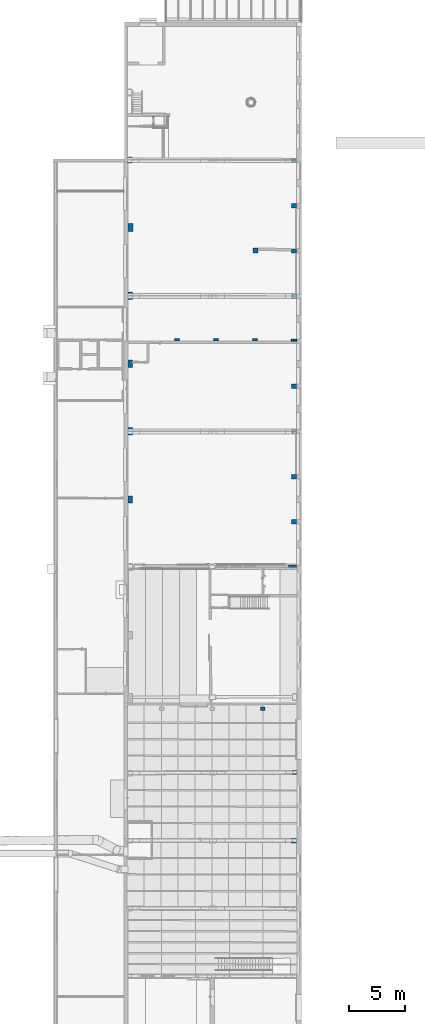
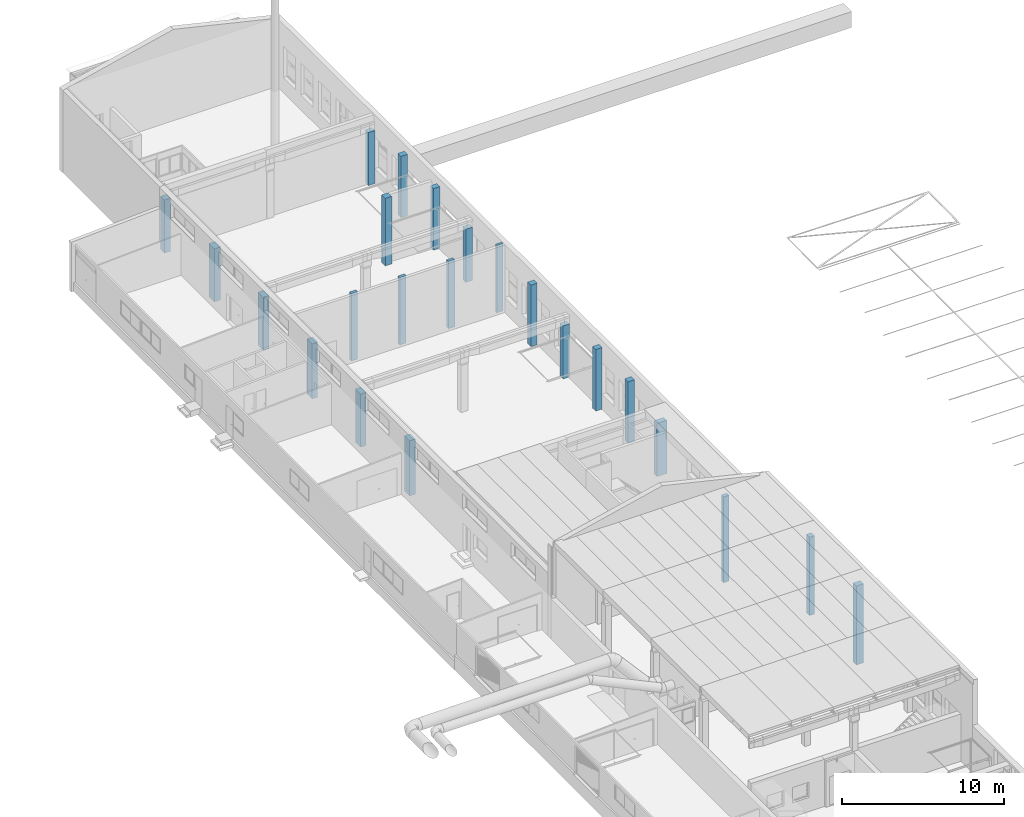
# One storey, part 18 of 301: 23 columns.
"""IFC2X3 building model written with IfcOpenShell, lengths in millimetres."""

from ifc_helpers import new_model, entity, si_unit, converted_unit, derived_unit, money_unit, direction, frame, origin_with_axes, place, context, subcontext, project, spatial, faceted_brep, material, type_object, element, save


model = new_model("IFC2X3")

# Units and contexts
model_context = context("Model", 3, precision=0.01, world=origin_with_axes(), true_north=direction((0.0, 1.0)))
body_context = subcontext(model_context, "Body", "Model", "MODEL_VIEW")
ifc_project = project(units=[si_unit("LENGTHUNIT", "METRE", prefix="MILLI"), si_unit("AREAUNIT", "SQUARE_METRE"), si_unit("VOLUMEUNIT", "CUBIC_METRE"), converted_unit("PLANEANGLEUNIT", "DEGREE", entity("IfcPlaneAngleMeasure", 0.0174532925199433), si_unit("PLANEANGLEUNIT", "RADIAN"), dimensions=[0, 0, 0, 0, 0, 0, 0]), money_unit("EUR"), converted_unit("TIMEUNIT", "Year", entity("IfcTimeMeasure", 31557600.0), si_unit("TIMEUNIT", "SECOND"), dimensions=[0, 0, 1, 0, 0, 0, 0]), si_unit("MASSUNIT", "GRAM", prefix="KILO"), si_unit("THERMODYNAMICTEMPERATUREUNIT", "DEGREE_CELSIUS"), si_unit("LUMINOUSINTENSITYUNIT", "LUMEN"), si_unit("ENERGYUNIT", "JOULE", prefix="MEGA"), derived_unit("THERMALCONDUCTANCEUNIT", [(si_unit("POWERUNIT", "WATT"), 1), (si_unit("LENGTHUNIT", "METRE"), -1), (si_unit("THERMODYNAMICTEMPERATUREUNIT", "KELVIN"), -1)]), derived_unit("SPECIFICHEATCAPACITYUNIT", [(si_unit("ENERGYUNIT", "JOULE"), 1), (si_unit("MASSUNIT", "GRAM", prefix="KILO"), -1), (si_unit("THERMODYNAMICTEMPERATUREUNIT", "KELVIN"), -1)]), derived_unit("MASSDENSITYUNIT", [(si_unit("MASSUNIT", "GRAM", prefix="KILO"), 1), (si_unit("VOLUMEUNIT", "CUBIC_METRE"), -1)])], contexts=[model_context])

# Site, building, storey
site_placement = place(None, frame((0.0, 0.0, 8650.0), z_axis=(0.0, 0.0, 1.0), x_axis=(1.0, 0.0, 0.0)))
site = spatial("IfcSite", under=ifc_project, at=site_placement, Name="43301:001:0844", CompositionType="ELEMENT")
building_placement = place(site_placement, origin_with_axes())
building = spatial("IfcBuilding", under=site, at=building_placement, Name="Kuressaare Ametikooli tuulikute mehaanikute õppekorpus", CompositionType="ELEMENT")
storey_placement = place(building_placement, origin_with_axes())
storey = spatial("IfcBuildingStorey", under=building, at=storey_placement, Name="1.korrus", CompositionType="ELEMENT", Elevation=0.0)

# Columns
ifc_material = material(Name="GENEERILINE - KONSTRUKTRIOON")
column_type_1 = type_object("IfcColumnType", Name="GENEERILINE - KONSTRUKTRIOON 500 x 400", PredefinedType="NOTDEFINED")
column_1_placement = place(storey_placement, frame((102977.5122029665, 50085.18157357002, 130.0), z_axis=(0.0, 0.0, 1.0), x_axis=(-1.0, 0.0, 0.0)))
element("IfcColumn", 1, at=column_1_placement, inside=storey, type_object=column_type_1, material=ifc_material, context=body_context, shape_type="Brep", body=[
    faceted_brep([(250.0000040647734, 199.9999999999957, 5950.0), (250.0000040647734, 199.9999999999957, 0.0), (-250.0000040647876, 199.9999999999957, 0.0), (-250.0000040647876, 199.9999999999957, 5950.0), (250.0000040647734, -200.0000000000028, 5950.0), (250.0000040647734, -200.0000000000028, 0.0), (-250.0000040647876, -200.0000000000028, 0.0), (-250.0000040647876, -200.0000000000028, 5950.0)], [[[0, 1, 2, 3]], [[4, 5, 1, 0]], [[2, 1, 5, 6]], [[3, 2, 6, 7]], [[4, 0, 3, 7]], [[7, 6, 5, 4]]]),
])
column_type_2 = type_object("IfcColumnType", Name="GENEERILINE - KONSTRUKTRIOON 400 x 286", PredefinedType="NOTDEFINED")
column_2_placement = place(storey_placement, frame((100244.5361574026, 61795.5255259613, 130.0), z_axis=(0.0, 0.0, 1.0), x_axis=(1.0, 0.0, 0.0)))
element("IfcColumn", 2, at=column_2_placement, inside=storey, type_object=column_type_2, material=ifc_material, context=body_context, shape_type="Brep", body=[
    faceted_brep([(-200.0000000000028, -142.8044322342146, 6470.0), (-200.0000000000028, -142.8044322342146, 0.0), (200.0000000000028, -142.8044322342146, 0.0), (200.0000000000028, -142.8044322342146, 6470.0), (-200.0000000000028, 142.8044322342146, 6470.0), (-200.0000000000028, 142.8044322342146, 0.0), (200.0000000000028, 142.8044322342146, 0.0), (200.0000000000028, 142.8044322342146, 6470.0)], [[[0, 1, 2, 3]], [[4, 5, 1, 0]], [[2, 1, 5, 6]], [[3, 2, 6, 7]], [[4, 0, 3, 7]], [[7, 6, 5, 4]]]),
])
column_type_3 = type_object("IfcColumnType", Name="GENEERILINE - KONSTRUKTRIOON 350 x 390", PredefinedType="NOTDEFINED")
column_3_placement = place(storey_placement, frame((103052.5122070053, 56132.98181024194, 130.0), z_axis=(0.0, 0.0, 1.0), x_axis=(-1.0, 0.0, 0.0)))
element("IfcColumn", 3, at=column_3_placement, inside=storey, type_object=column_type_3, material=ifc_material, context=body_context, shape_type="Brep", body=[
    faceted_brep([(175.0000000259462, 195.0000025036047, 5900.0), (175.0000000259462, 195.0000025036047, 0.0), (-175.000000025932, 195.0000025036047, 0.0), (-175.000000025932, 195.0000025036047, 5900.0), (175.0000000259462, -195.0000025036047, 5900.0), (175.0000000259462, -195.0000025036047, 0.0), (-175.000000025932, -195.0000025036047, 0.0), (-175.000000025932, -195.0000025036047, 5900.0)], [[[0, 1, 2, 3]], [[4, 5, 1, 0]], [[2, 1, 5, 6]], [[3, 2, 6, 7]], [[4, 0, 3, 7]], [[7, 6, 5, 4]]]),
])
column_type_4 = type_object("IfcColumnType", Name="GENEERILINE - KONSTRUKTRIOON 420 x 500", PredefinedType="NOTDEFINED")
column_4_placement = place(storey_placement, frame((88428.74598310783, 110487.4402275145, -330.0), z_axis=(0.0, 0.0, 1.0), x_axis=(-1.0, 0.0, 0.0)))
element("IfcColumn", 4, at=column_4_placement, inside=storey, type_object=column_type_4, material=ifc_material, context=body_context, shape_type="Brep", body=[
    faceted_brep([(-209.9999999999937, -250.0, 4000.000000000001), (-209.9999999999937, -250.0, 0.0), (210.000000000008, -250.0, 0.0), (210.000000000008, -250.0, 4000.000000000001), (-209.9999999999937, 250.0, 4000.000000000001), (-209.9999999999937, 250.0, 0.0), (210.000000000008, 250.0, 0.0), (210.000000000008, 250.0, 4000.000000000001)], [[[0, 1, 2, 3]], [[4, 5, 1, 0]], [[2, 1, 5, 6]], [[3, 2, 6, 7]], [[4, 0, 3, 7]], [[7, 6, 5, 4]]]),
])
column_type_5 = type_object("IfcColumnType", Name="GENEERILINE - KONSTRUKTRIOON 460 x 390", PredefinedType="NOTDEFINED")
column_5_placement = place(storey_placement, frame((102997.5122070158, 98393.96082227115, -330.0), z_axis=(0.0, 0.0, 1.0), x_axis=(-1.0, 0.0, 0.0)))
element("IfcColumn", 5, at=column_5_placement, inside=storey, type_object=column_type_5, material=ifc_material, context=body_context, shape_type="Brep", body=[
    faceted_brep([(230.0000000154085, 195.0000000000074, 4000.000000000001), (230.0000000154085, 195.0000000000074, 0.0), (-230.0000000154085, 195.0000000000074, 0.0), (-230.0000000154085, 195.0000000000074, 4000.000000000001), (230.0000000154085, -194.9999999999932, 4000.000000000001), (230.0000000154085, -194.9999999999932, 0.0), (-230.0000000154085, -194.9999999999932, 0.0), (-230.0000000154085, -194.9999999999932, 4000.000000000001)], [[[0, 1, 2, 3]], [[4, 5, 1, 0]], [[2, 1, 5, 6]], [[3, 2, 6, 7]], [[4, 0, 3, 7]], [[7, 6, 5, 4]]]),
])
for number, where, z_axis, x_axis in (
    (6, (102997.5122070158, 102409.6179199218, -330.0), (0.0, 0.0, 1.0), (-1.0, 0.0, 0.0)),
    (7, (102997.5122070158, 106428.9608222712, -330.0), (0.0, 0.0, 1.0), (-1.0, 0.0, 0.0)),
):
    element("IfcColumn", number, at=place(storey_placement, frame(where, z_axis=z_axis, x_axis=x_axis)), inside=storey, type_object=column_type_5, material=ifc_material, context=body_context, shape_type="Brep", body=[
        faceted_brep([(230.0000000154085, 195.0000000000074, 4630.0), (230.0000000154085, 195.0000000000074, 0.0), (-230.0000000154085, 195.0000000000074, 0.0), (-230.0000000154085, 195.0000000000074, 4630.0), (230.0000000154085, -194.9999999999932, 4630.0), (230.0000000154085, -194.9999999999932, 0.0), (-230.0000000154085, -194.9999999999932, 0.0), (-230.0000000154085, -194.9999999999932, 4630.0)], [[[0, 1, 2, 3]], [[4, 5, 1, 0]], [[2, 1, 5, 6]], [[3, 2, 6, 7]], [[4, 0, 3, 7]], [[7, 6, 5, 4]]]),
    ])
column_6_placement = place(storey_placement, frame((102997.5122070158, 110438.9608222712, -330.0), z_axis=(0.0, 0.0, 1.0), x_axis=(-1.0, 0.0, 0.0)))
element("IfcColumn", 8, at=column_6_placement, inside=storey, type_object=column_type_5, material=ifc_material, context=body_context, shape_type="Brep", body=[
    faceted_brep([(230.0000000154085, 195.0000000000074, 3988.130658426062), (230.0000000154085, 195.0000000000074, 0.0), (-230.0000000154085, 195.0000000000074, 0.0), (-230.0000000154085, 195.0000000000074, 3988.130658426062), (230.0000000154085, -194.9999999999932, 3988.130658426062), (230.0000000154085, -194.9999999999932, 0.0), (-230.0000000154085, -194.9999999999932, 0.0), (-230.0000000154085, -194.9999999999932, 3988.130658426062)], [[[0, 1, 2, 3]], [[4, 5, 1, 0]], [[2, 1, 5, 6]], [[3, 2, 6, 7]], [[4, 0, 3, 7]], [[7, 6, 5, 4]]]),
])
column_7_placement = place(storey_placement, frame((102997.5122070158, 86385.60203897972, -330.0), z_axis=(0.0, 0.0, 1.0), x_axis=(-1.0, 0.0, 0.0)))
element("IfcColumn", 9, at=column_7_placement, inside=storey, type_object=column_type_5, material=ifc_material, context=body_context, shape_type="Brep", body=[
    faceted_brep([(230.0000000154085, 195.0000000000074, 4000.000000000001), (230.0000000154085, 195.0000000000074, 0.0), (-230.0000000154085, 195.0000000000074, 0.0), (-230.0000000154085, 195.0000000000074, 4000.000000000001), (230.0000000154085, -194.9999999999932, 4000.000000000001), (230.0000000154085, -194.9999999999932, 0.0), (-230.0000000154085, -194.9999999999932, 0.0), (-230.0000000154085, -194.9999999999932, 4000.000000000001)], [[[0, 1, 2, 3]], [[4, 5, 1, 0]], [[2, 1, 5, 6]], [[3, 2, 6, 7]], [[4, 0, 3, 7]], [[7, 6, 5, 4]]]),
])
column_type_6 = type_object("IfcColumnType", Name="GENEERILINE - KONSTRUKTRIOON 220 x 450", PredefinedType="NOTDEFINED")
for number, where, z_axis, x_axis in (
    (10, (92623.63822281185, 94513.96082227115, -330.0), (0.0, 0.0, 1.0), (0.0, -1.0, 0.0)),
    (11, (96077.17899762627, 94513.96082227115, -330.0), (0.0, 0.0, 1.0), (0.0, -1.0, 0.0)),
    (12, (99555.34505997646, 94513.96082227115, -330.0), (0.0, 0.0, 1.0), (0.0, -1.0, 0.0)),
):
    element("IfcColumn", number, at=place(storey_placement, frame(where, z_axis=z_axis, x_axis=x_axis)), inside=storey, type_object=column_type_6, material=ifc_material, context=body_context, shape_type="Brep", body=[
        faceted_brep([(-109.9999999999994, -224.9999999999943, 5090.0), (-109.9999999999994, -224.9999999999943, 0.0), (109.9999999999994, -224.9999999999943, 0.0), (109.9999999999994, -224.9999999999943, 5090.0), (-109.9999999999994, 225.0000000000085, 5090.0), (-109.9999999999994, 225.0000000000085, 0.0), (109.9999999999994, 225.0000000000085, 0.0), (109.9999999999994, 225.0000000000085, 5090.0)], [[[0, 1, 2, 3]], [[4, 5, 1, 0]], [[2, 1, 5, 6]], [[3, 2, 6, 7]], [[4, 0, 3, 7]], [[7, 6, 5, 4]]]),
    ])
column_type_7 = type_object("IfcColumnType", Name="GENEERILINE - KONSTRUKTRIOON 390 x 675", PredefinedType="NOTDEFINED")
column_8_placement = place(storey_placement, frame((88453.75663055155, 98445.75843261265, -330.0), z_axis=(0.0, 0.0, 1.0), x_axis=(-1.0, 0.0, 0.0)))
element("IfcColumn", 13, at=column_8_placement, inside=storey, type_object=column_type_7, material=ifc_material, context=body_context, shape_type="Brep", body=[
    faceted_brep([(-195.0001837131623, -337.5000026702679, 4000.000000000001), (-195.0001837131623, -337.5000026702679, 0.0), (195.0001837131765, -337.5000026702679, 0.0), (195.0001837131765, -337.5000026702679, 4000.000000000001), (-195.0001837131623, 337.5000026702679, 4000.000000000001), (-195.0001837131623, 337.5000026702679, 0.0), (195.0001837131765, 337.5000026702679, 0.0), (195.0001837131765, 337.5000026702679, 4000.000000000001)], [[[0, 1, 2, 3]], [[4, 5, 1, 0]], [[2, 1, 5, 6]], [[3, 2, 6, 7]], [[4, 0, 3, 7]], [[7, 6, 5, 4]]]),
])
column_type_8 = type_object("IfcColumnType", Name="GENEERILINE - KONSTRUKTRIOON 460 x 460", PredefinedType="NOTDEFINED")
column_9_placement = place(storey_placement, frame((99571.51367185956, 102458.6148071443, -330.0), z_axis=(0.0, 0.0, 1.0), x_axis=(-1.0, 0.0, 0.0)))
element("IfcColumn", 14, at=column_9_placement, inside=storey, type_object=column_type_8, material=ifc_material, context=body_context, shape_type="Brep", body=[
    faceted_brep([(230.0000000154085, 230.0000000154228, 5090.0), (230.0000000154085, 230.0000000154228, 0.0), (-230.0000000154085, 230.0000000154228, 0.0), (-230.0000000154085, 230.0000000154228, 5090.0), (230.0000000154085, -230.0000000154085, 5090.0), (230.0000000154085, -230.0000000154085, 0.0), (-230.0000000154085, -230.0000000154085, 0.0), (-230.0000000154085, -230.0000000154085, 5090.0)], [[[0, 1, 2, 3]], [[4, 5, 1, 0]], [[2, 1, 5, 6]], [[3, 2, 6, 7]], [[4, 0, 3, 7]], [[7, 6, 5, 4]]]),
])
column_type_9 = type_object("IfcColumnType", Name="GENEERILINE - KONSTRUKTRIOON 450 x 675", PredefinedType="NOTDEFINED")
column_10_placement = place(storey_placement, frame((88483.759498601, 104491.0339382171, -330.0), z_axis=(0.0, 0.0, 1.0), x_axis=(-1.0, 0.0, 0.0)))
element("IfcColumn", 15, at=column_10_placement, inside=storey, type_object=column_type_9, material=ifc_material, context=body_context, shape_type="Brep", body=[
    faceted_brep([(-225.0000000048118, -337.5000026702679, 4000.000000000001), (-225.0000000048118, -337.5000026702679, 0.0), (225.0000000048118, -337.5000026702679, 0.0), (225.0000000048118, -337.5000026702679, 4000.000000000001), (-225.0000000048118, 337.5000026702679, 4000.000000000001), (-225.0000000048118, 337.5000026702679, 0.0), (225.0000000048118, 337.5000026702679, 0.0), (225.0000000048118, 337.5000026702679, 4000.000000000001)], [[[0, 1, 2, 3]], [[4, 5, 1, 0]], [[2, 1, 5, 6]], [[3, 2, 6, 7]], [[4, 0, 3, 7]], [[7, 6, 5, 4]]]),
])
column_type_10 = type_object("IfcColumnType", Name="GENEERILINE - KONSTRUKTRIOON 175 x 450", PredefinedType="NOTDEFINED")
column_11_placement = place(storey_placement, frame((103002.5122070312, 94491.46082231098, -330.0), z_axis=(0.0, 0.0, 1.0), x_axis=(0.0, -1.0, 0.0)))
element("IfcColumn", 16, at=column_11_placement, inside=storey, type_object=column_type_10, material=ifc_material, context=body_context, shape_type="Brep", body=[
    faceted_brep([(-87.50000003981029, -224.9999999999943, 5090.0), (-87.50000003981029, -224.9999999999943, 0.0), (87.5000000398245, -224.9999999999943, 0.0), (87.5000000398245, -224.9999999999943, 5090.0), (-87.50000003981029, 225.0000000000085, 5090.0), (-87.50000003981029, 225.0000000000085, 0.0), (87.5000000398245, 225.0000000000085, 0.0), (87.5000000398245, 225.0000000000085, 5090.0)], [[[0, 1, 2, 3]], [[4, 5, 1, 0]], [[2, 1, 5, 6]], [[3, 2, 6, 7]], [[4, 0, 3, 7]], [[7, 6, 5, 4]]]),
])
column_type_11 = type_object("IfcColumnType", Name="GENEERILINE - KONSTRUKTRIOON 400 x 660", PredefinedType="NOTDEFINED")
column_12_placement = place(storey_placement, frame((88458.7564494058, 86419.38242523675, -330.0), z_axis=(0.0, 0.0, 1.0), x_axis=(-1.0, 0.0, 0.0)))
element("IfcColumn", 17, at=column_12_placement, inside=storey, type_object=column_type_11, material=ifc_material, context=body_context, shape_type="Brep", body=[
    faceted_brep([(-200.0000025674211, -330.0000026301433, 4000.000000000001), (-200.0000025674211, -330.0000026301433, 0.0), (200.0000025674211, -330.0000026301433, 0.0), (200.0000025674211, -330.0000026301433, 4000.000000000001), (-200.0000025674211, 330.0000026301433, 4000.000000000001), (-200.0000025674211, 330.0000026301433, 0.0), (200.0000025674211, 330.0000026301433, 0.0), (200.0000025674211, 330.0000026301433, 4000.000000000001)], [[[0, 1, 2, 3]], [[4, 5, 1, 0]], [[2, 1, 5, 6]], [[3, 2, 6, 7]], [[4, 0, 3, 7]], [[7, 6, 5, 4]]]),
])
column_type_12 = type_object("IfcColumnType", Name="GENEERILINE - KONSTRUKTRIOON 400 x 640", PredefinedType="NOTDEFINED")
column_13_placement = place(storey_placement, frame((88458.50867978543, 80346.11343481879, -330.0), z_axis=(0.0, 0.0, 1.0), x_axis=(-1.0, 0.0, 0.0)))
element("IfcColumn", 18, at=column_13_placement, inside=storey, type_object=column_type_12, material=ifc_material, context=body_context, shape_type="Brep", body=[
    faceted_brep([(-200.0000354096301, -320.0000440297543, 4150.0), (-200.0000354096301, -320.0000440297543, 0.0), (200.0000354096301, -320.0000440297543, 0.0), (200.0000354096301, -320.0000440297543, 4150.0), (-200.0000354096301, 320.0000440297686, 4150.0), (-200.0000354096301, 320.0000440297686, 0.0), (200.0000354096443, 320.0000440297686, 0.0), (200.0000354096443, 320.0000440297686, 4150.0)], [[[0, 1, 2, 3]], [[4, 5, 1, 0]], [[2, 1, 5, 6]], [[3, 2, 6, 7]], [[4, 0, 3, 7]], [[7, 6, 5, 4]]]),
])
column_14_placement = place(storey_placement, frame((88458.50867978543, 92402.34581946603, -330.0), z_axis=(0.0, 0.0, 1.0), x_axis=(-1.0, 0.0, 0.0)))
element("IfcColumn", 19, at=column_14_placement, inside=storey, type_object=column_type_12, material=ifc_material, context=body_context, shape_type="Brep", body=[
    faceted_brep([(-200.0000354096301, -320.0000440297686, 4150.0), (-200.0000354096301, -320.0000440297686, 0.0), (200.0000354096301, -320.0000440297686, 0.0), (200.0000354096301, -320.0000440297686, 4150.0), (-200.0000354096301, 320.0000440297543, 4150.0), (-200.0000354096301, 320.0000440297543, 0.0), (200.0000354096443, 320.0000440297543, 0.0), (200.0000354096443, 320.0000440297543, 4150.0)], [[[0, 1, 2, 3]], [[4, 5, 1, 0]], [[2, 1, 5, 6]], [[3, 2, 6, 7]], [[4, 0, 3, 7]], [[7, 6, 5, 4]]]),
])
column_type_13 = type_object("IfcColumnType", Name="GENEERILINE - KONSTRUKTRIOON 450 x 400", PredefinedType="NOTDEFINED")
for number, where, z_axis, x_axis in (
    (20, (103002.5122053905, 82380.60203897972, -330.0), (0.0, 0.0, 1.0), (-1.0, 0.0, 0.0)),
    (21, (103002.5122053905, 78375.10160295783, -330.0), (0.0, 0.0, 1.0), (-1.0, 0.0, 0.0)),
    (22, (103002.5122053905, 90390.10160295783, -330.0), (0.0, 0.0, 1.0), (-1.0, 0.0, 0.0)),
):
    element("IfcColumn", number, at=place(storey_placement, frame(where, z_axis=z_axis, x_axis=x_axis)), inside=storey, type_object=column_type_13, material=ifc_material, context=body_context, shape_type="Brep", body=[
        faceted_brep([(225.000001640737, 200.0000000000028, 4650.0), (225.000001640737, 200.0000000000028, 0.0), (-225.000001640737, 200.0000000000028, 0.0), (-225.000001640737, 200.0000000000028, 4650.0), (225.000001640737, -200.0000000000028, 4650.0), (225.000001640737, -200.0000000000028, 0.0), (-225.000001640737, -200.0000000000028, 0.0), (-225.000001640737, -200.0000000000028, 4650.0)], [[[0, 1, 2, 3]], [[4, 5, 1, 0]], [[2, 1, 5, 6]], [[3, 2, 6, 7]], [[4, 0, 3, 7]], [[7, 6, 5, 4]]]),
    ])
column_type_14 = type_object("IfcColumnType", Name="GENEERILINE - KONSTRUKTRIOON 700 x 380", PredefinedType="NOTDEFINED")
column_15_placement = place(storey_placement, frame((102877.512200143, 74375.19257865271, -330.0), z_axis=(0.0, 0.0, 1.0), x_axis=(-1.0, 0.0, 0.0)))
element("IfcColumn", 23, at=column_15_placement, inside=storey, type_object=column_type_14, material=ifc_material, context=body_context, shape_type="Brep", body=[
    faceted_brep([(350.0000068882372, 190.0000410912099, 4000.000000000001), (350.0000068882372, 190.0000410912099, 0.0), (-350.000006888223, 190.0000410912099, 0.0), (-350.000006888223, 190.0000410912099, 4000.000000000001), (350.0000068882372, -190.0000410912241, 4000.000000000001), (350.0000068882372, -190.0000410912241, 0.0), (-350.000006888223, -190.0000410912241, 0.0), (-350.000006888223, -190.0000410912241, 4000.000000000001)], [[[0, 1, 2, 3]], [[4, 5, 1, 0]], [[2, 1, 5, 6]], [[3, 2, 6, 7]], [[4, 0, 3, 7]], [[7, 6, 5, 4]]]),
])

save(model, "model.ifc")
